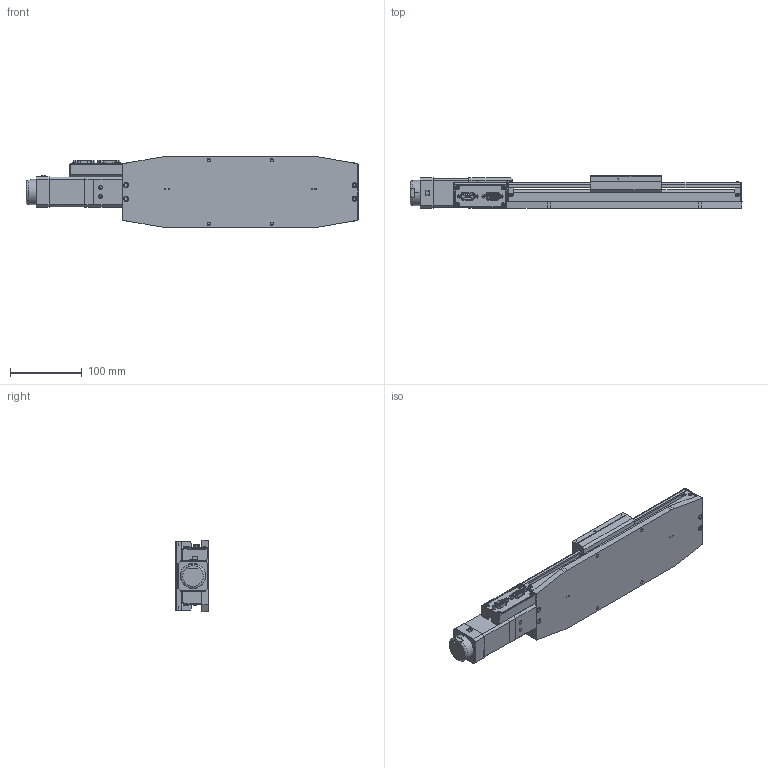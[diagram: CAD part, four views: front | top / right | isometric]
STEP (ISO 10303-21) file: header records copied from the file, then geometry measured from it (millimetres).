
FILE_DESCRIPTION (( 'STEP AP214' ), '1' );
FILE_NAME ('L3500.200-STC_v2_20180822.STEP', '2018-08-22T11:25:15', ( '' ), ( '' ), 'SwSTEP 2.0', 'SolidWorks 2017', '' );
FILE_SCHEMA (( 'AUTOMOTIVE_DESIGN' ));
Length unit declared in the file: millimetre
Products named in the file (1): L3500.200-STC_v2_20180822
Bounding box: 461.64 x 45.32 x 99.06 mm (x, y, z)
Volume: 860039.5 mm3; surface area: 335738.6 mm2
Topology: 53 solids, 54 shells, 2769 faces, 7022 edges, 4479 vertices
Faces by surface type: plane 1415, cylinder 1063, cone 196, bspline 65, torus 30
Entity records: 86244 total; most frequent: CARTESIAN_POINT 17925, DIRECTION 14290, ORIENTED_EDGE 13788, EDGE_CURVE 6894, AXIS2_PLACEMENT_3D 4959, VERTEX_POINT 4479, LINE 4372, VECTOR 4372
